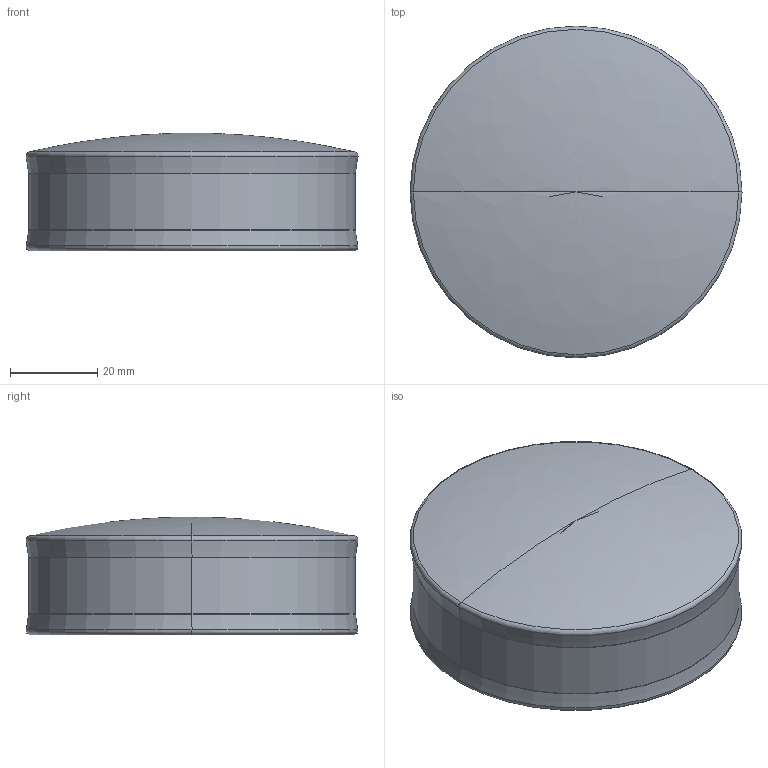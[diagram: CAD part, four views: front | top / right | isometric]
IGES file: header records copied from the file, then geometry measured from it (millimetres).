
Start section: IGES file generated by C3D Converter 1.6 translator by C3D Labs., translator version IGESOUT-5.1.
Global section: file name: HC:\Users\沓膼\OneDrive\Desktop\欙鵳醆TL70\鐕謽僗\扻錝魛.igs; preprocessor: 1.0; author: 沓膼,7; organization: Hunknown; date: -17760826:041512; units: millimetre
Bounding box: 76.15 x 76.13 x 27 mm (x, y, z)
Volume: 27220.4 mm3; surface area: 18713.4 mm2
Topology: 1 solids, 1 shells, 25 faces, 52 edges, 26 vertices
Faces by surface type: revolution 24, bspline 1
